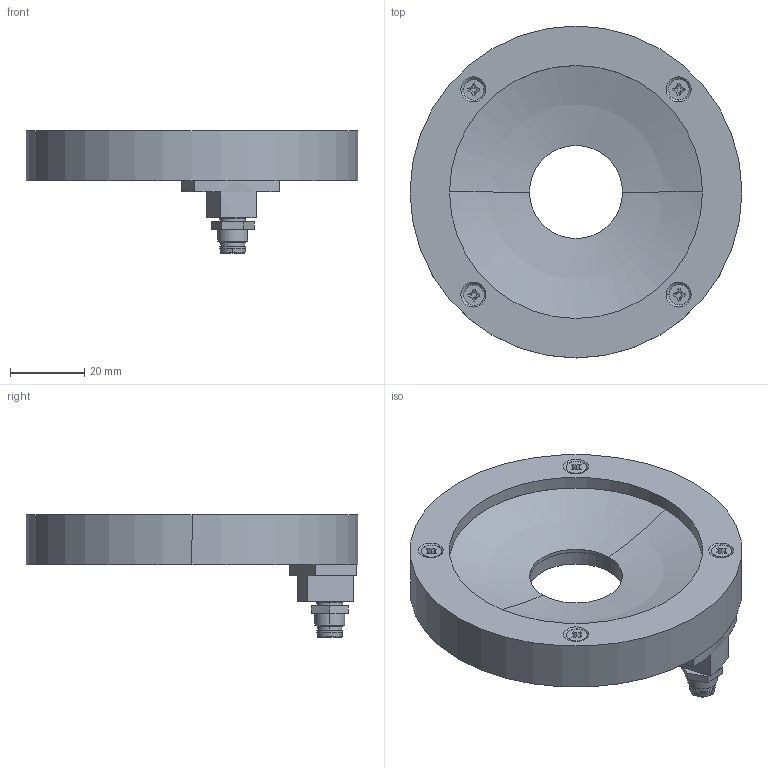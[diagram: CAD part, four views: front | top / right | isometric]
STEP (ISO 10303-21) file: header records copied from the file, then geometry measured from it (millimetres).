
FILE_DESCRIPTION(('STEP AP214'),'1');
FILE_NAME('Arena-70 Kundenmodell 6P.stp','2020-03-11T11:21:15',(' '),(' '),'Spatial InterOp 3D',' ',' ');
FILE_SCHEMA(('AUTOMOTIVE_DESIGN { 1 0 10303 214 1 1 1 1 }'));
Length unit declared in the file: metre
Products named in the file (1): Volumenkörper
Bounding box: 89.2 x 89.2 x 33.03 mm (x, y, z)
Volume: 43920.7 mm3; surface area: 29411.3 mm2
Topology: 1 solids, 1 shells, 485 faces, 1268 edges, 810 vertices
Faces by surface type: cylinder 212, plane 182, cone 50, torus 27, sphere 14
Entity records: 16785 total; most frequent: CARTESIAN_POINT 3881, DIRECTION 2725, ORIENTED_EDGE 2488, EDGE_CURVE 1244, AXIS2_PLACEMENT_3D 1071, VERTEX_POINT 810, CIRCLE 585, LINE 583
